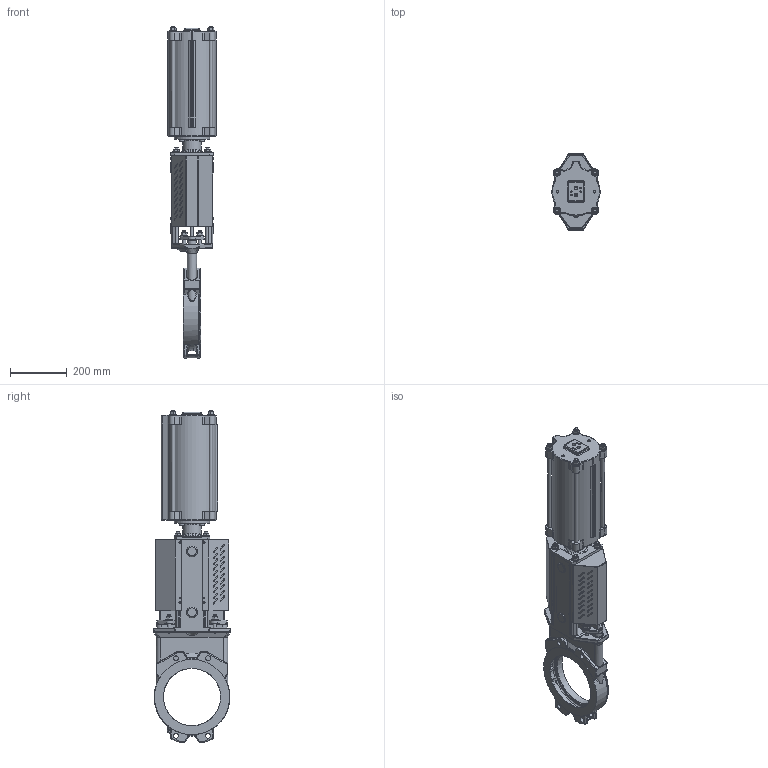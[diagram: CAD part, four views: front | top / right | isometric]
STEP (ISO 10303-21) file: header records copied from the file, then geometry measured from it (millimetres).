
FILE_DESCRIPTION(/* description */ (''),/* implementation_level */ '2;1');
FILE_NAME(/* name */ 'F:\Emir\3D-block special\MV VALVE\PNEUMATIC ACTUATOR\MV-DN200-PN10-FRSC160-215_Shrinkwrap_1.stp',/* time_stamp */ '2018-09-26T10:38:35+02:00',/* author */ ('emimus'),/* organization */ (''),/* preprocessor_version */ 'ST-DEVELOPER v17.2',/* originating_system */ 'Autodesk Inventor 2019',/* authorisation */ '');
FILE_SCHEMA (('CONFIG_CONTROL_DESIGN'));
Products named in the file (1): MV-DN200-PN10-FRSC160-215_Shrinkwrap_1
Bounding box: 170 x 268 x 1169.29 mm (x, y, z)
Volume: 6856084.3 mm3; surface area: 1939429.9 mm2
Topology: 2 solids, 2 shells, 2660 faces, 6892 edges, 4267 vertices
Faces by surface type: plane 920, cylinder 827, bspline 362, torus 233, cone 218, sphere 100
Full cylindrical faces by diameter (mm): 3 x5, 4 x6, 4.134 x4, 4.2 x12, 4.5 x8, 4.917 x4, 6.647 x1, 8 x5, 8.376 x2, 9.5 x4, 10 x11, 10.106 x8, 11.445 x2, 12 x28, 13 x15, 15 x7, 16 x8, 17.294 x8, 17.7 x1, 18 x4, 20 x1, 24 x16, 28 x5, 30 x1, 30.1 x2, 34 x1, 35 x1, 36 x1, 36.4 x1, 38 x3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
Entity records: 95146 total; most frequent: CARTESIAN_POINT 30805, DIRECTION 13694, ORIENTED_EDGE 13634, EDGE_CURVE 6817, AXIS2_PLACEMENT_3D 5569, VERTEX_POINT 4267, EDGE_LOOP 2962, CIRCLE 2945
